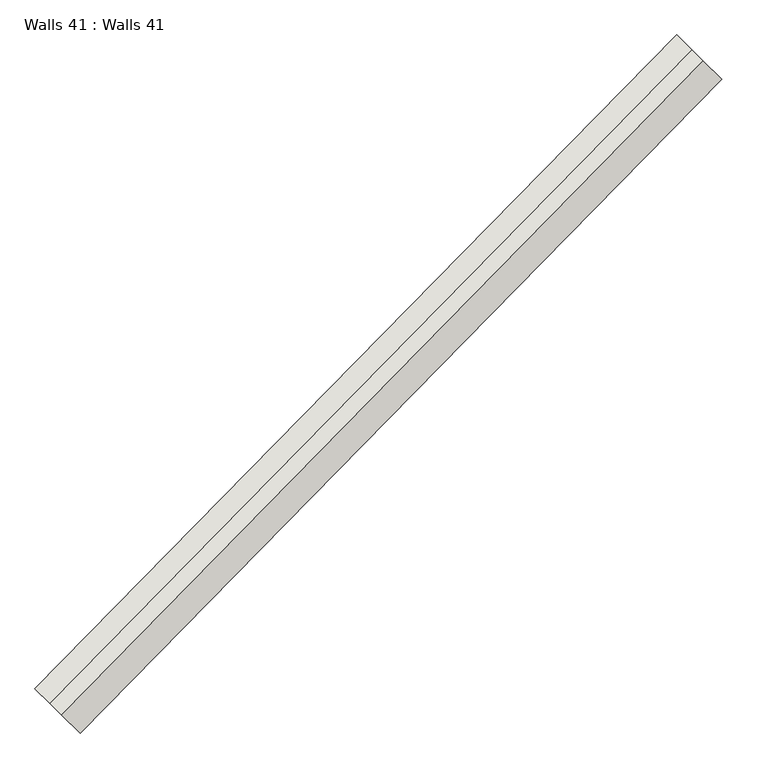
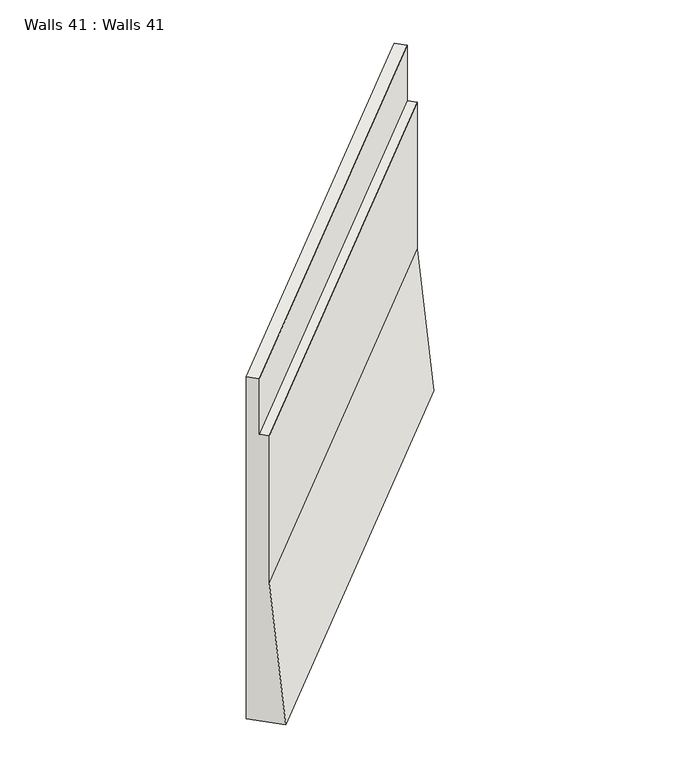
"""IFC4 building model written with IfcOpenShell, lengths in millimetres: wall geometry, Walls 41 : Walls 41."""

from ifc_helpers import new_model, si_unit, origin, place, context, project, spatial, faceted_brep, source, transform, mapped, element, save


def walls_41_walls_41_9fdf9c22(model_context):
    return source(origin(), model_context, "Body", "Brep", [
        faceted_brep([(-141851.8205694, -300396.7382655, 639260.0), (-141851.8205694, -300396.7382655, 641900.0), (-141958.8807599, -300291.6762974, 641900.0), (-141958.8807599, -300291.6762974, 642900.0), (-142101.6276807, -300151.5936733, 642900.0), (-142101.6276807, -300151.5936733, 636760.0), (-141673.3847334, -300571.8436899, 636760.0), (-135758.2130877, -294187.2336273, 639350.0), (-135579.7772517, -294362.3390517, 636850.0), (-136008.020199, -293942.0890352, 636850.0), (-136008.020199, -293942.0890352, 642980.0), (-135865.2732783, -294082.1716592, 642980.0), (-135865.2732783, -294082.1716592, 641980.0), (-135758.2130877, -294187.2336273, 641980.0)], [[[0, 1, 2, 3, 4, 5, 6]], [[7, 8, 9, 10, 11, 12, 13]], [[8, 7, 0, 6]], [[7, 13, 1, 0]], [[13, 12, 2, 1]], [[12, 11, 3, 2]], [[11, 10, 4, 3]], [[10, 9, 5, 4]], [[9, 8, 6, 5]]]),
    ])


if __name__ == "__main__":
    model = new_model("IFC4")
    model_context = context("Model", 3, world=origin())
    ifc_project = project(units=[si_unit("LENGTHUNIT", "METRE", prefix="MILLI")], contexts=[model_context])
    site = spatial("IfcSite", under=ifc_project)
    building = spatial("IfcBuilding", under=site)
    placement = place(None, origin())
    walls_41_walls_41_shape = walls_41_walls_41_9fdf9c22(model_context)
    element("IfcWall", 1, ObjectType="Walls 41 : Walls 41", at=placement, inside=building, context=model_context, shape_type="MappedRepresentation", body=[
        mapped(walls_41_walls_41_shape, transform((0.0, 0.0, 0.0), x_axis=(1.0, 0.0, 0.0), y_axis=(0.0, 1.0, 0.0), z_axis=(0.0, 0.0, 1.0))),
    ])
    save(model, "model.ifc")
